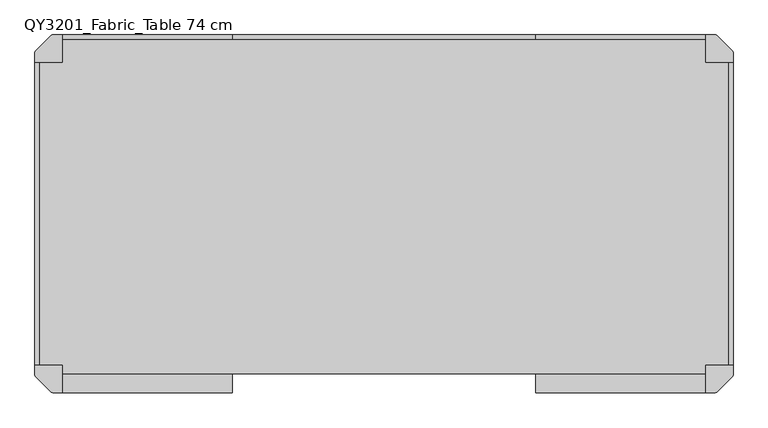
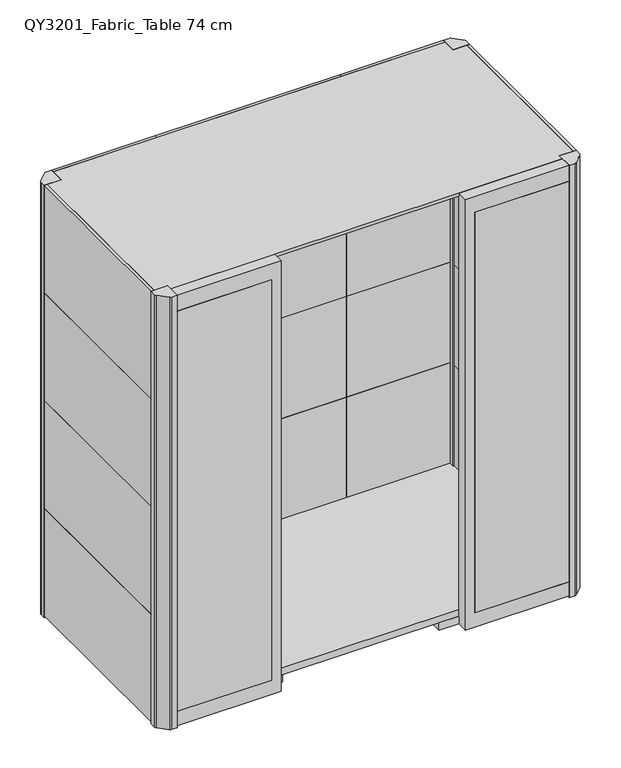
"""IFC4 building model written with IfcOpenShell, lengths in millimetres: furniture geometry, Qyos_200 : QY3201_Fabric_Table 74 cm."""

from ifc_helpers import new_model, si_unit, point, frame, frame_2d, origin, origin_with_axes, place, context, project, spatial, polyline, circle_curve, trimmed, segment, composite_curve, outline, extrude, source, transform, mapped, element, save
from ifc_brep_helpers import plane_surface, cylinder_surface, advanced_brep


def qy3201_fabric_table_74_cm_62a4d738(model_context):
    return source(origin(), model_context, "Body", "SolidModel", [
        advanced_brep(
        [(853.8585356, 382.0, 0.0), (900.1414644, 382.0, 0.0), (877.0, 382.0, 0.0), (853.8585356, 382.0, 7.0), (900.1414644, 382.0, 7.0), (867.3615446, 382.0, 7.0), (886.6384554, 382.0, 7.0), (867.3615446, 382.0, 17.0), (886.6384554, 382.0, 17.0), (877.0, 382.0, 17.0)],
        [
            (0, 1, circle_curve(frame((877.0, 382.0, 0.0), z_axis=(0.0, 0.0, -1.0), x_axis=(1.0, 0.0, 0.0)), 23.1414644)),
            (1, 2),
            (2, 0),
            (1, 0, circle_curve(frame((877.0, 382.0, 0.0), z_axis=(0.0, 0.0, -1.0), x_axis=(1.0, 0.0, 0.0)), 23.1414644)),
            (3, 4, circle_curve(frame((877.0, 382.0, 7.0), z_axis=(0.0, 0.0, -1.0), x_axis=(1.0, 0.0, 0.0)), 23.1414644)),
            (4, 1),
            (0, 3),
            (4, 3, circle_curve(frame((877.0, 382.0, 7.0), z_axis=(0.0, 0.0, -1.0), x_axis=(1.0, 0.0, 0.0)), 23.1414644)),
            (5, 6, circle_curve(frame((877.0, 382.0, 7.0), z_axis=(0.0, 0.0, -1.0), x_axis=(1.0, 0.0, 0.0)), 9.6384554)),
            (6, 4),
            (3, 5),
            (6, 5, circle_curve(frame((877.0, 382.0, 7.0), z_axis=(0.0, 0.0, -1.0), x_axis=(1.0, 0.0, 0.0)), 9.6384554)),
            (7, 8, circle_curve(frame((877.0, 382.0, 17.0), z_axis=(0.0, 0.0, -1.0), x_axis=(1.0, 0.0, 0.0)), 9.6384554)),
            (8, 6),
            (5, 7),
            (8, 7, circle_curve(frame((877.0, 382.0, 17.0), z_axis=(0.0, 0.0, -1.0), x_axis=(1.0, 0.0, 0.0)), 9.6384554)),
            (9, 8),
            (7, 9),
        ],
        [
            plane_surface(frame((877.0, 382.0, 0.0), z_axis=(0.0, 0.0, -1.0), x_axis=(1.0, 0.0, 0.0))),
            cylinder_surface(frame((877.0, 382.0, 1997.4144888), z_axis=(0.0, 0.0, 1.0), x_axis=(1.0, 0.0, 0.0)), 23.1414644),
            plane_surface(frame((877.0, 382.0, 7.0), z_axis=(0.0, 0.0, 1.0), x_axis=(1.0, 0.0, 0.0))),
            cylinder_surface(frame((877.0, 382.0, 1997.4144888), z_axis=(0.0, 0.0, 1.0), x_axis=(1.0, 0.0, 0.0)), 9.6384554),
            plane_surface(frame((877.0, 382.0, 17.0), z_axis=(0.0, 0.0, 1.0), x_axis=(1.0, 0.0, 0.0))),
        ],
        [
            (0, [[1, 2, 3]]),
            (0, [[4, -3, -2]]),
            (1, [[5, 6, -1, 7]]),
            (1, [[8, -7, -4, -6]]),
            (2, [[9, 10, -5, 11]]),
            (2, [[12, -11, -8, -10]]),
            (3, [[13, 14, -9, 15]]),
            (3, [[16, -15, -12, -14]]),
            (4, [[17, -13, 18]]),
            (4, [[-18, -16, -17]]),
        ],
    ),
        extrude(outline(composite_curve([segment(trimmed(circle_curve(frame_2d((877.0, 382.0)), 23.1414644), [point((853.8585356, 382.0))], [point((900.1414644, 382.0))], False, "CARTESIAN"), True, "CONTINUOUS"), segment(trimmed(circle_curve(frame_2d((877.0, 382.0)), 23.1414644), [point((900.1414644, 382.0))], [point((853.8585356, 382.0))], False, "CARTESIAN"), True, "CONTINUOUS")], self_intersect=False)), origin_with_axes(), (0.0, 0.0, 1.0), 7.0),
        extrude(outline(composite_curve([segment(polyline([(-945.0, 445.0), (-1025.0, 445.0), (-1025.0, 472.5536246)]), True, "CONTINUOUS"), segment(trimmed(circle_curve(frame_2d((-1013.0024364, 472.3118252)), 12.0), [point((-1025.0, 472.5536246))], [point((-1021.7960176, 480.4771745))], False, "CARTESIAN"), True, "CONTINUOUS"), segment(trimmed(circle_curve(frame_2d((-443.4303831, -56.568803)), 789.2560985), [point((-1021.7960176, 480.4771745))], [point((-980.4763607, 521.7968315))], False, "CARTESIAN"), True, "CONTINUOUS"), segment(trimmed(circle_curve(frame_2d((-972.3110114, 513.0032502)), 12.0), [point((-980.4763607, 521.7968315))], [point((-972.5902872, 525.0))], False, "CARTESIAN"), True, "CONTINUOUS"), segment(polyline([(-972.5902872, 525.0), (-945.0, 525.0), (-945.0, 445.0)]), True, "CONTINUOUS")], self_intersect=False)), origin_with_axes(), (0.0, 0.0, 1.0), 2202.1),
        extrude(outline(composite_curve([segment(polyline([(945.0, 445.0), (945.0, 525.0), (972.5536246, 525.0)]), True, "CONTINUOUS"), segment(trimmed(circle_curve(frame_2d((972.3118252, 513.0024364)), 12.0), [point((972.5536246, 525.0))], [point((980.4771745, 521.7960176))], False, "CARTESIAN"), True, "CONTINUOUS"), segment(trimmed(circle_curve(frame_2d((443.431197, -56.5696169)), 789.2560985), [point((980.4771745, 521.7960176))], [point((1021.7968315, 480.4763607))], False, "CARTESIAN"), True, "CONTINUOUS"), segment(trimmed(circle_curve(frame_2d((1013.0032502, 472.3110114)), 12.0), [point((1021.7968315, 480.4763607))], [point((1025.0, 472.5902872))], False, "CARTESIAN"), True, "CONTINUOUS"), segment(polyline([(1025.0, 472.5902872), (1025.0, 445.0), (945.0, 445.0)]), True, "CONTINUOUS")], self_intersect=False)), origin_with_axes(), (0.0, 0.0, 1.0), 2202.1),
        extrude(outline(composite_curve([segment(polyline([(945.0, -445.0), (1025.0, -445.0), (1025.0, -472.5536246)]), True, "CONTINUOUS"), segment(trimmed(circle_curve(frame_2d((1013.0024364, -472.3118252)), 12.0), [point((1025.0, -472.5536246))], [point((1021.7960176, -480.4771745))], False, "CARTESIAN"), True, "CONTINUOUS"), segment(trimmed(circle_curve(frame_2d((443.4303831, 56.568803)), 789.2560985), [point((1021.7960176, -480.4771745))], [point((980.4763607, -521.7968315))], False, "CARTESIAN"), True, "CONTINUOUS"), segment(trimmed(circle_curve(frame_2d((972.3110114, -513.0032502)), 12.0), [point((980.4763607, -521.7968315))], [point((972.5902872, -525.0))], False, "CARTESIAN"), True, "CONTINUOUS"), segment(polyline([(972.5902872, -525.0), (945.0, -525.0), (945.0, -445.0)]), True, "CONTINUOUS")], self_intersect=False)), origin_with_axes(), (0.0, 0.0, 1.0), 2202.1),
        extrude(outline(composite_curve([segment(polyline([(-945.0, -445.0), (-945.0, -525.0), (-972.5536246, -525.0)]), True, "CONTINUOUS"), segment(trimmed(circle_curve(frame_2d((-972.3118252, -513.0024364)), 12.0), [point((-972.5536246, -525.0))], [point((-980.4771745, -521.7960176))], False, "CARTESIAN"), True, "CONTINUOUS"), segment(trimmed(circle_curve(frame_2d((-443.431197, 56.5696169)), 789.2560985), [point((-980.4771745, -521.7960176))], [point((-1021.7968315, -480.4763607))], False, "CARTESIAN"), True, "CONTINUOUS"), segment(trimmed(circle_curve(frame_2d((-1013.0032502, -472.3110114)), 12.0), [point((-1021.7968315, -480.4763607))], [point((-1025.0, -472.5902872))], False, "CARTESIAN"), True, "CONTINUOUS"), segment(polyline([(-1025.0, -472.5902872), (-1025.0, -445.0), (-945.0, -445.0)]), True, "CONTINUOUS")], self_intersect=False)), origin_with_axes(), (0.0, 0.0, 1.0), 2202.1),
        extrude(outline(polyline([(945.0, 445.0), (1011.0, 445.0), (1011.0, -445.0), (945.0, -445.0), (945.0, -469.9956819), (-945.0, -469.9956819), (-945.0, -445.0), (-1011.0, -445.0), (-1011.0, 445.0), (-945.0, 445.0), (-945.0, 470.0), (-945.0, 511.0), (945.0, 511.0), (945.0, 470.0), (945.0, 445.0)])), frame((0.0, 0.0, 2186.1), z_axis=(0.0, 0.0, 1.0), x_axis=(1.0, 0.0, 0.0)), (0.0, 0.0, 1.0), 16.0),
        extrude(outline(polyline([(-945.0, 470.0), (-945.0, 489.0), (-445.0, 489.0), (-445.0, 470.0), (-945.0, 470.0)])), frame((0.0, 0.0, 1617.9823403), z_axis=(0.0, 0.0, 1.0), x_axis=(1.0, 0.0, 0.0)), (0.0, 0.0, 1.0), 504.1176597),
        extrude(outline(polyline([(445.0557256, 489.0), (945.0, 489.0), (945.0, 470.0), (445.0557256, 470.0), (445.0557256, 489.0)])), frame((0.0, 0.0, 1617.9823403), z_axis=(0.0, 0.0, 1.0), x_axis=(1.0, 0.0, 0.0)), (0.0, 0.0, 1.0), 504.1176597),
        extrude(outline(polyline([(-945.0, 470.0), (-945.0, 489.0), (-445.0, 489.0), (-445.0, 470.0), (-945.0, 470.0)])), frame((0.0, 0.0, 1106.0116287), z_axis=(0.0, 0.0, 1.0), x_axis=(1.0, 0.0, 0.0)), (0.0, 0.0, 1.0), 511.9707116),
        extrude(outline(polyline([(445.0557256, 489.0), (945.0, 489.0), (945.0, 470.0), (445.0557256, 470.0), (445.0557256, 489.0)])), frame((0.0, 0.0, 1106.0116287), z_axis=(0.0, 0.0, 1.0), x_axis=(1.0, 0.0, 0.0)), (0.0, 0.0, 1.0), 511.9707116),
        extrude(outline(polyline([(-945.0, 470.0), (-945.0, 489.0), (-445.0, 489.0), (-445.0, 470.0), (-945.0, 470.0)])), frame((0.0, 0.0, 593.9823403), z_axis=(0.0, 0.0, 1.0), x_axis=(1.0, 0.0, 0.0)), (0.0, 0.0, 1.0), 512.0292884),
        extrude(outline(polyline([(445.0557256, 489.0), (945.0, 489.0), (945.0, 470.0), (445.0557256, 470.0), (445.0557256, 489.0)])), frame((0.0, 0.0, 593.9823403), z_axis=(0.0, 0.0, 1.0), x_axis=(1.0, 0.0, 0.0)), (0.0, 0.0, 1.0), 512.0292884),
        extrude(outline(polyline([(-445.0, 511.0), (-945.0, 511.0), (-945.0, 525.0), (-445.0, 525.0), (-445.0, 511.0)])), frame((0.0, 0.0, 1654.0116287), z_axis=(0.0, 0.0, 1.0), x_axis=(1.0, 0.0, 0.0)), (0.0, 0.0, 1.0), 548.0883713),
        extrude(outline(polyline([(945.0, 525.0), (945.0, 511.0), (445.0557256, 511.0), (445.0557256, 525.0), (945.0, 525.0)])), frame((0.0, 0.0, 1654.0116287), z_axis=(0.0, 0.0, 1.0), x_axis=(1.0, 0.0, 0.0)), (0.0, 0.0, 1.0), 548.0883713),
        extrude(outline(polyline([(-445.0, 511.0), (-945.0, 511.0), (-945.0, 525.0), (-445.0, 525.0), (-445.0, 511.0)])), frame((0.0, 0.0, 1106.0116287), z_axis=(0.0, 0.0, 1.0), x_axis=(1.0, 0.0, 0.0)), (0.0, 0.0, 1.0), 548.0),
        extrude(outline(polyline([(945.0, 525.0), (945.0, 511.0), (445.0557256, 511.0), (445.0557256, 525.0), (945.0, 525.0)])), frame((0.0, 0.0, 1106.0116287), z_axis=(0.0, 0.0, 1.0), x_axis=(1.0, 0.0, 0.0)), (0.0, 0.0, 1.0), 548.0),
        extrude(outline(polyline([(-445.0, 511.0), (-945.0, 511.0), (-945.0, 525.0), (-445.0, 525.0), (-445.0, 511.0)])), frame((0.0, 0.0, 558.0116287), z_axis=(0.0, 0.0, 1.0), x_axis=(1.0, 0.0, 0.0)), (0.0, 0.0, 1.0), 548.0),
        extrude(outline(polyline([(945.0, 525.0), (945.0, 511.0), (445.0557256, 511.0), (445.0557256, 525.0), (945.0, 525.0)])), frame((0.0, 0.0, 558.0116287), z_axis=(0.0, 0.0, 1.0), x_axis=(1.0, 0.0, 0.0)), (0.0, 0.0, 1.0), 548.0),
        extrude(outline(polyline([(-945.0, 470.0), (-945.0, 489.0), (-445.0, 489.0), (-445.0, 470.0), (-945.0, 470.0)])), frame((0.0, 0.0, 77.0), z_axis=(0.0, 0.0, 1.0), x_axis=(1.0, 0.0, 0.0)), (0.0, 0.0, 1.0), 516.9823403),
        extrude(outline(polyline([(445.0557256, 489.0), (945.0, 489.0), (945.0, 470.0), (445.0557256, 470.0), (445.0557256, 489.0)])), frame((0.0, 0.0, 77.0), z_axis=(0.0, 0.0, 1.0), x_axis=(1.0, 0.0, 0.0)), (0.0, 0.0, 1.0), 516.9823403),
        extrude(outline(polyline([(-445.0, 511.0), (-945.0, 511.0), (-945.0, 525.0), (-445.0, 525.0), (-445.0, 511.0)])), origin_with_axes(), (0.0, 0.0, 1.0), 558.0116287),
        extrude(outline(polyline([(945.0, 525.0), (945.0, 511.0), (445.0557256, 511.0), (445.0557256, 525.0), (945.0, 525.0)])), origin_with_axes(), (0.0, 0.0, 1.0), 558.0116287),
        extrude(outline(polyline([(-1025.0, -445.0), (-1025.0, 445.0), (-1011.0, 445.0), (-1011.0, -445.0), (-1025.0, -445.0)])), frame((0.0, 0.0, 1654.0116287), z_axis=(0.0, 0.0, 1.0), x_axis=(1.0, 0.0, 0.0)), (0.0, 0.0, 1.0), 548.0883713),
        extrude(outline(polyline([(1025.0, -445.0), (1011.0, -445.0), (1011.0, 445.0), (1025.0, 445.0), (1025.0, -445.0)])), frame((0.0, 0.0, 1654.0116287), z_axis=(0.0, 0.0, 1.0), x_axis=(1.0, 0.0, 0.0)), (0.0, 0.0, 1.0), 548.0883713),
        extrude(outline(polyline([(445.0557256, 525.0), (445.0557256, 511.0), (-445.0, 511.0), (-445.0, 525.0), (445.0557256, 525.0)])), frame((0.0, 0.0, 1654.0116287), z_axis=(0.0, 0.0, 1.0), x_axis=(1.0, 0.0, 0.0)), (0.0, 0.0, 1.0), 548.0883713),
        extrude(outline(polyline([(-490.0089845, -525.0), (-945.0, -525.0), (-945.0, -520.0), (-490.0089845, -520.0), (-490.0089845, -525.0)])), frame((0.0, 0.0, 82.0), z_axis=(0.0, 0.0, 1.0), x_axis=(1.0, 0.0, 0.0)), (0.0, 0.0, 1.0), 2040.1),
        extrude(outline(polyline([(945.0, -525.0), (490.0089845, -525.0), (490.0089845, -520.0), (945.0, -520.0), (945.0, -525.0)])), frame((0.0, 0.0, 82.0), z_axis=(0.0, 0.0, 1.0), x_axis=(1.0, 0.0, 0.0)), (0.0, 0.0, 1.0), 2040.1),
        extrude(outline(polyline([(-857.0, -469.9956819), (-897.0, -469.9956819), (-897.0, 470.0), (-857.0, 470.0), (-857.0, -469.9956819)])), frame((0.0, 0.0, 10.0), z_axis=(0.0, 0.0, 1.0), x_axis=(1.0, 0.0, 0.0)), (0.0, 0.0, 1.0), 37.0),
        extrude(outline(polyline([(-405.0, -469.9956819), (-445.0, -469.9956819), (-445.0, 470.0), (-405.0, 470.0), (-405.0, -469.9956819)])), frame((0.0, 0.0, 10.0), z_axis=(0.0, 0.0, 1.0), x_axis=(1.0, 0.0, 0.0)), (0.0, 0.0, 1.0), 37.0),
        extrude(outline(polyline([(897.0, -469.9956819), (857.0, -469.9956819), (857.0, 470.0), (897.0, 470.0), (897.0, -469.9956819)])), frame((0.0, 0.0, 10.0), z_axis=(0.0, 0.0, 1.0), x_axis=(1.0, 0.0, 0.0)), (0.0, 0.0, 1.0), 37.0),
        extrude(outline(polyline([(349.5486306, 470.0), (445.0557256, 470.0), (445.0557256, -469.9956819), (349.5486306, -469.9956819), (349.5486306, 470.0)])), frame((0.0, 0.0, 10.0), z_axis=(0.0, 0.0, 1.0), x_axis=(1.0, 0.0, 0.0)), (0.0, 0.0, 1.0), 37.0),
        extrude(outline(polyline([(2122.1, -490.0089845), (82.0, -490.0089845), (82.0, -945.0), (10.0, -945.0), (10.0, -445.0), (2202.1, -445.0), (2202.1, -945.0), (2122.1, -945.0), (2122.1, -490.0089845)])), frame((0.0, -525.0, 0.0), z_axis=(0.0, 1.0, 0.0), x_axis=(0.0, 0.0, 1.0)), (0.0, 0.0, 1.0), 55.0043181),
        extrude(outline(polyline([(2122.1, 490.0089845), (2122.1, 945.0), (2202.1, 945.0), (2202.1, 445.0), (10.0, 445.0), (10.0, 945.0), (82.0, 945.0), (82.0, 490.0089845), (2122.1, 490.0089845)])), frame((0.0, -525.0, 0.0), z_axis=(0.0, 1.0, 0.0), x_axis=(0.0, 0.0, 1.0)), (0.0, 0.0, 1.0), 55.0043181),
        extrude(outline(polyline([(-951.0, 445.0), (-945.0, 445.0), (-945.0, 470.0), (945.0, 470.0), (945.0, 445.0), (951.0, 445.0), (951.0, -445.0), (945.0, -445.0), (945.0, -469.9956819), (-945.0, -469.9956819), (-945.0, -445.0), (-951.0, -445.0), (-951.0, 445.0)])), frame((0.0, 0.0, 47.0), z_axis=(0.0, 0.0, 1.0), x_axis=(1.0, 0.0, 0.0)), (0.0, 0.0, 1.0), 35.0),
        extrude(outline(polyline([(970.0, -444.9498873), (951.0, -444.9498873), (951.0, 445.0024364), (970.0, 445.0024364), (970.0, -444.9498873)])), frame((0.0, 0.0, 1617.9823403), z_axis=(0.0, 0.0, 1.0), x_axis=(1.0, 0.0, 0.0)), (0.0, 0.0, 1.0), 504.1176597),
        extrude(outline(polyline([(-970.0, -445.0), (-970.0, 445.0), (-951.0, 445.0), (-951.0, -445.0), (-970.0, -445.0)])), frame((0.0, 0.0, 1617.9823403), z_axis=(0.0, 0.0, 1.0), x_axis=(1.0, 0.0, 0.0)), (0.0, 0.0, 1.0), 504.1176597),
        extrude(outline(polyline([(-445.0, 470.0), (-445.0, 489.0), (445.0557256, 489.0), (445.0557256, 470.0), (-445.0, 470.0)])), frame((0.0, 0.0, 1617.9823403), z_axis=(0.0, 0.0, 1.0), x_axis=(1.0, 0.0, 0.0)), (0.0, 0.0, 1.0), 504.1176597),
        extrude(outline(polyline([(970.0, -445.0), (951.0, -445.0), (951.0, 445.0), (970.0, 445.0), (970.0, -445.0)])), frame((0.0, 0.0, 1106.0116287), z_axis=(0.0, 0.0, 1.0), x_axis=(1.0, 0.0, 0.0)), (0.0, 0.0, 1.0), 511.9707116),
        extrude(outline(polyline([(-970.0, -445.0), (-970.0, 445.0), (-951.0, 445.0), (-951.0, -445.0), (-970.0, -445.0)])), frame((0.0, 0.0, 1106.0116287), z_axis=(0.0, 0.0, 1.0), x_axis=(1.0, 0.0, 0.0)), (0.0, 0.0, 1.0), 511.9707116),
        extrude(outline(polyline([(-445.0, 470.0), (-445.0, 489.0), (445.0557256, 489.0), (445.0557256, 470.0), (-445.0, 470.0)])), frame((0.0, 0.0, 1106.0116287), z_axis=(0.0, 0.0, 1.0), x_axis=(1.0, 0.0, 0.0)), (0.0, 0.0, 1.0), 511.9707116),
        extrude(outline(polyline([(970.0, -445.0), (951.0, -445.0), (951.0, 445.0), (970.0, 445.0), (970.0, -445.0)])), frame((0.0, 0.0, 593.9823403), z_axis=(0.0, 0.0, 1.0), x_axis=(1.0, 0.0, 0.0)), (0.0, 0.0, 1.0), 512.0292884),
        extrude(outline(polyline([(-970.0, -445.0), (-970.0, 445.0), (-951.0, 445.0), (-951.0, -445.0), (-970.0, -445.0)])), frame((0.0, 0.0, 593.9823403), z_axis=(0.0, 0.0, 1.0), x_axis=(1.0, 0.0, 0.0)), (0.0, 0.0, 1.0), 512.0292884),
        extrude(outline(polyline([(-445.0, 470.0), (-445.0, 489.0), (445.0557256, 489.0), (445.0557256, 470.0), (-445.0, 470.0)])), frame((0.0, 0.0, 593.9823403), z_axis=(0.0, 0.0, 1.0), x_axis=(1.0, 0.0, 0.0)), (0.0, 0.0, 1.0), 512.0292884),
        extrude(outline(polyline([(970.0, -445.0), (951.0, -445.0), (951.0, 445.0), (970.0, 445.0), (970.0, -445.0)])), frame((0.0, 0.0, 77.0), z_axis=(0.0, 0.0, 1.0), x_axis=(1.0, 0.0, 0.0)), (0.0, 0.0, 1.0), 516.9823403),
        extrude(outline(polyline([(-970.0, -445.0), (-970.0, 445.0), (-951.0, 445.0), (-951.0, -445.0), (-970.0, -445.0)])), frame((0.0, 0.0, 77.0), z_axis=(0.0, 0.0, 1.0), x_axis=(1.0, 0.0, 0.0)), (0.0, 0.0, 1.0), 516.9823403),
        extrude(outline(polyline([(-445.0, 470.0), (-445.0, 489.0), (445.0557256, 489.0), (445.0557256, 470.0), (-445.0, 470.0)])), frame((0.0, 0.0, 77.0), z_axis=(0.0, 0.0, 1.0), x_axis=(1.0, 0.0, 0.0)), (0.0, 0.0, 1.0), 516.9823403),
        extrude(outline(polyline([(-1025.0, -445.0), (-1025.0, 445.0), (-1011.0, 445.0), (-1011.0, -445.0), (-1025.0, -445.0)])), frame((0.0, 0.0, 1106.0116287), z_axis=(0.0, 0.0, 1.0), x_axis=(1.0, 0.0, 0.0)), (0.0, 0.0, 1.0), 548.0),
        extrude(outline(polyline([(1025.0, -445.0), (1011.0, -445.0), (1011.0, 445.0), (1025.0, 445.0), (1025.0, -445.0)])), frame((0.0, 0.0, 1106.0116287), z_axis=(0.0, 0.0, 1.0), x_axis=(1.0, 0.0, 0.0)), (0.0, 0.0, 1.0), 548.0),
        extrude(outline(polyline([(445.0557256, 525.0), (445.0557256, 511.0), (-445.0, 511.0), (-445.0, 525.0), (445.0557256, 525.0)])), frame((0.0, 0.0, 1106.0116287), z_axis=(0.0, 0.0, 1.0), x_axis=(1.0, 0.0, 0.0)), (0.0, 0.0, 1.0), 548.0),
        extrude(outline(polyline([(-1025.0, -445.0), (-1025.0, 445.0), (-1011.0, 445.0), (-1011.0, -445.0), (-1025.0, -445.0)])), frame((0.0, 0.0, 558.0116287), z_axis=(0.0, 0.0, 1.0), x_axis=(1.0, 0.0, 0.0)), (0.0, 0.0, 1.0), 548.0),
        extrude(outline(polyline([(1025.0, -445.0), (1011.0, -445.0), (1011.0, 445.0), (1025.0, 445.0), (1025.0, -445.0)])), frame((0.0, 0.0, 558.0116287), z_axis=(0.0, 0.0, 1.0), x_axis=(1.0, 0.0, 0.0)), (0.0, 0.0, 1.0), 548.0),
        extrude(outline(polyline([(445.0557256, 525.0), (445.0557256, 511.0), (-445.0, 511.0), (-445.0, 525.0), (445.0557256, 525.0)])), frame((0.0, 0.0, 558.0116287), z_axis=(0.0, 0.0, 1.0), x_axis=(1.0, 0.0, 0.0)), (0.0, 0.0, 1.0), 548.0),
        extrude(outline(polyline([(-1025.0, -445.0), (-1025.0, 445.0), (-1011.0, 445.0), (-1011.0, -445.0), (-1025.0, -445.0)])), frame((0.0, 0.0, 10.0), z_axis=(0.0, 0.0, 1.0), x_axis=(1.0, 0.0, 0.0)), (0.0, 0.0, 1.0), 548.0116287),
        extrude(outline(polyline([(1025.0, -445.0), (1011.0, -445.0), (1011.0, 445.0), (1025.0, 445.0), (1025.0, -445.0)])), frame((0.0, 0.0, 10.0), z_axis=(0.0, 0.0, 1.0), x_axis=(1.0, 0.0, 0.0)), (0.0, 0.0, 1.0), 548.0116287),
        extrude(outline(polyline([(445.0557256, 525.0), (445.0557256, 511.0), (-445.0, 511.0), (-445.0, 525.0), (445.0557256, 525.0)])), frame((0.0, 0.0, 10.0), z_axis=(0.0, 0.0, 1.0), x_axis=(1.0, 0.0, 0.0)), (0.0, 0.0, 1.0), 548.0116287),
    ])


if __name__ == "__main__":
    model = new_model("IFC4")
    model_context = context("Model", 3, world=origin())
    ifc_project = project(units=[si_unit("LENGTHUNIT", "METRE", prefix="MILLI")], contexts=[model_context])
    site = spatial("IfcSite", under=ifc_project)
    building = spatial("IfcBuilding", under=site)
    placement = place(None, origin())
    qy3201_fabric_table_74_cm_shape = qy3201_fabric_table_74_cm_62a4d738(model_context)
    element("IfcFurniture", 1, ObjectType="Qyos_200 : QY3201_Fabric_Table 74 cm", at=placement, inside=building, context=model_context, shape_type="MappedRepresentation", body=[
        mapped(qy3201_fabric_table_74_cm_shape, transform((0.0, 0.0, 0.0), x_axis=(1.0, 0.0, 0.0), y_axis=(0.0, 1.0, 0.0), z_axis=(0.0, 0.0, 1.0))),
    ])
    save(model, "model.ifc")
